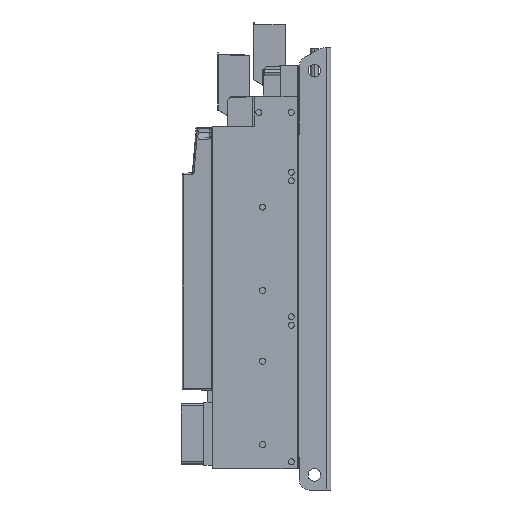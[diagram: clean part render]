
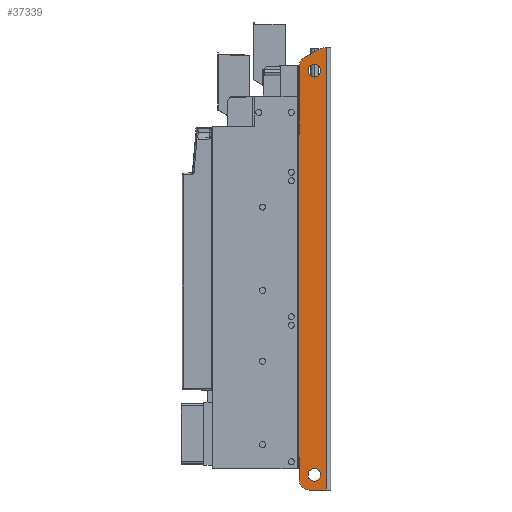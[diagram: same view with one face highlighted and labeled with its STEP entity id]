
A CAD part, left-side view. The second image highlights one B-rep face of the part: STEP entity #37339.
In plain terms, the highlighted planar face has unit normal (-1, 0, 0).
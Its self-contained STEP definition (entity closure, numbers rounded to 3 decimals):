
#2659 = CARTESIAN_POINT ( 'NONE',  ( -163., 25., -43.9 ) ) ;
#3404 = ORIENTED_EDGE ( 'NONE', *, *, #83073, .T. ) ;
#3478 = VERTEX_POINT ( 'NONE', #81518 ) ;
#3687 = ORIENTED_EDGE ( 'NONE', *, *, #75972, .T. ) ;
#3988 = ORIENTED_EDGE ( 'NONE', *, *, #23197, .T. ) ;
#4596 = ORIENTED_EDGE ( 'NONE', *, *, #13861, .T. ) ;
#5196 = EDGE_CURVE ( 'NONE', #61309, #70208, #18524, .T. ) ;
#6830 = EDGE_LOOP ( 'NONE', ( #54045, #49320 ) ) ;
#7768 = CARTESIAN_POINT ( 'NONE',  ( -163., -23.359, 791.1 ) ) ;
#8004 = LINE ( 'NONE', #76830, #13808 ) ;
#8896 = DIRECTION ( 'NONE',  ( 0., 0., 1. ) ) ;
#9017 = DIRECTION ( 'NONE',  ( 0., 0., 1. ) ) ;
#9339 = DIRECTION ( 'NONE',  ( -1., 0., 0. ) ) ;
#9648 = AXIS2_PLACEMENT_3D ( 'NONE', #69621, #62364, #48316 ) ;
#11264 = LINE ( 'NONE', #66971, #25804 ) ;
#12111 = VECTOR ( 'NONE', #81367, 1000. ) ;
#13152 = VERTEX_POINT ( 'NONE', #19704 ) ;
#13808 = VECTOR ( 'NONE', #47863, 1000. ) ;
#13861 = EDGE_CURVE ( 'NONE', #28720, #49265, #43791, .T. ) ;
#13877 = CARTESIAN_POINT ( 'NONE',  ( -163., -5., 766.1 ) ) ;
#14892 = VECTOR ( 'NONE', #78818, 1000. ) ;
#15884 = VECTOR ( 'NONE', #30231, 1000. ) ;
#15907 = ORIENTED_EDGE ( 'NONE', *, *, #85964, .F. ) ;
#16560 = AXIS2_PLACEMENT_3D ( 'NONE', #53757, #25708, #45606 ) ;
#17066 = ORIENTED_EDGE ( 'NONE', *, *, #68152, .F. ) ;
#17256 = CIRCLE ( 'NONE', #79464, 12.5 ) ;
#17614 = DIRECTION ( 'NONE',  ( 0., 0., 1. ) ) ;
#18524 = CIRCLE ( 'NONE', #73473, 12.5 ) ;
#19704 = CARTESIAN_POINT ( 'NONE',  ( -163., 25., 640.5 ) ) ;
#21575 = CARTESIAN_POINT ( 'NONE',  ( -163., 25., -63.9 ) ) ;
#21870 = VERTEX_POINT ( 'NONE', #89673 ) ;
#22327 = EDGE_CURVE ( 'NONE', #43836, #3478, #63698, .T. ) ;
#22677 = CARTESIAN_POINT ( 'NONE',  ( -163., 27., 536. ) ) ;
#22712 = CARTESIAN_POINT ( 'NONE',  ( -163., 27., 640.5 ) ) ;
#23197 = EDGE_CURVE ( 'NONE', #34036, #63031, #11264, .T. ) ;
#23606 = DIRECTION ( 'NONE',  ( 0., -1., 0. ) ) ;
#23981 = CIRCLE ( 'NONE', #42774, 20. ) ;
#25086 = CARTESIAN_POINT ( 'NONE',  ( -163., -5., -21.4 ) ) ;
#25708 = DIRECTION ( 'NONE',  ( -1., 0., 0. ) ) ;
#25729 = CARTESIAN_POINT ( 'NONE',  ( -163., 5., -63.9 ) ) ;
#25804 = VECTOR ( 'NONE', #53350, 1000. ) ;
#26105 = CARTESIAN_POINT ( 'NONE',  ( -163., 25., -63.9 ) ) ;
#28037 = VERTEX_POINT ( 'NONE', #44565 ) ;
#28147 = DIRECTION ( 'NONE',  ( 0., 0., 1. ) ) ;
#28357 = DIRECTION ( 'NONE',  ( 0., 0., -1. ) ) ;
#28720 = VERTEX_POINT ( 'NONE', #29454 ) ;
#28842 = CARTESIAN_POINT ( 'NONE',  ( -163., -18., 811.1 ) ) ;
#29454 = CARTESIAN_POINT ( 'NONE',  ( -163., -29., -63.9 ) ) ;
#29557 = CIRCLE ( 'NONE', #16560, 12.5 ) ;
#29698 = LINE ( 'NONE', #21575, #68561 ) ;
#29993 = VERTEX_POINT ( 'NONE', #47945 ) ;
#30231 = DIRECTION ( 'NONE',  ( 0., 0., 1. ) ) ;
#30720 = EDGE_CURVE ( 'NONE', #42188, #13152, #42714, .T. ) ;
#32063 = CARTESIAN_POINT ( 'NONE',  ( -163., -29., 811.1 ) ) ;
#34036 = VERTEX_POINT ( 'NONE', #78187 ) ;
#34059 = CIRCLE ( 'NONE', #62950, 20. ) ;
#35606 = EDGE_CURVE ( 'NONE', #29993, #43836, #34059, .T. ) ;
#36515 = DIRECTION ( 'NONE',  ( 0., 0.866, -0.5 ) ) ;
#37339 = ADVANCED_FACE ( 'NONE', ( #62472, #42968, #42079 ), #55674, .T. ) ;
#37617 = CARTESIAN_POINT ( 'NONE',  ( -163., 25., 0. ) ) ;
#37647 = VERTEX_POINT ( 'NONE', #25729 ) ;
#39142 = EDGE_CURVE ( 'NONE', #70208, #61309, #62475, .T. ) ;
#40783 = CARTESIAN_POINT ( 'NONE',  ( -163., 25., 774.727 ) ) ;
#41388 = CARTESIAN_POINT ( 'NONE',  ( -163., 25., 585. ) ) ;
#42013 = CARTESIAN_POINT ( 'NONE',  ( -163., -29., -63.9 ) ) ;
#42079 = FACE_BOUND ( 'NONE', #56495, .T. ) ;
#42188 = VERTEX_POINT ( 'NONE', #40783 ) ;
#42714 = LINE ( 'NONE', #41388, #43672 ) ;
#42774 = AXIS2_PLACEMENT_3D ( 'NONE', #46815, #61302, #60393 ) ;
#42968 = FACE_BOUND ( 'NONE', #6830, .T. ) ;
#43672 = VECTOR ( 'NONE', #62223, 1000. ) ;
#43791 = LINE ( 'NONE', #42013, #15884 ) ;
#43836 = VERTEX_POINT ( 'NONE', #44087 ) ;
#44087 = CARTESIAN_POINT ( 'NONE',  ( -163., -13.359, 808.421 ) ) ;
#44565 = CARTESIAN_POINT ( 'NONE',  ( -163., 27., 640.5 ) ) ;
#44854 = LINE ( 'NONE', #22712, #70429 ) ;
#45606 = DIRECTION ( 'NONE',  ( 0., 0., 1. ) ) ;
#46815 = CARTESIAN_POINT ( 'NONE',  ( -163., 5., -43.9 ) ) ;
#47856 = CARTESIAN_POINT ( 'NONE',  ( -163., -5., -46.4 ) ) ;
#47863 = DIRECTION ( 'NONE',  ( 0., 1., 0. ) ) ;
#47945 = CARTESIAN_POINT ( 'NONE',  ( -163., -23.359, 811.1 ) ) ;
#48316 = DIRECTION ( 'NONE',  ( 0., 0., 1. ) ) ;
#48668 = EDGE_CURVE ( 'NONE', #28037, #13152, #44854, .T. ) ;
#48866 = CARTESIAN_POINT ( 'NONE',  ( -163., 27., 536. ) ) ;
#49265 = VERTEX_POINT ( 'NONE', #32063 ) ;
#49320 = ORIENTED_EDGE ( 'NONE', *, *, #39142, .F. ) ;
#49541 = EDGE_LOOP ( 'NONE', ( #3988, #3404, #3687, #60047, #4596, #62564, #63028, #58446, #60070, #58853, #50413, #70187 ) ) ;
#49762 = DIRECTION ( 'NONE',  ( -1., 0., 0. ) ) ;
#50413 = ORIENTED_EDGE ( 'NONE', *, *, #48668, .F. ) ;
#53350 = DIRECTION ( 'NONE',  ( 0., -1., 0. ) ) ;
#53757 = CARTESIAN_POINT ( 'NONE',  ( -163., -5., 766.1 ) ) ;
#53956 = CARTESIAN_POINT ( 'NONE',  ( -163., -5., 778.6 ) ) ;
#54045 = ORIENTED_EDGE ( 'NONE', *, *, #5196, .F. ) ;
#54475 = EDGE_CURVE ( 'NONE', #49265, #29993, #8004, .T. ) ;
#55674 = PLANE ( 'NONE',  #57815 ) ;
#56495 = EDGE_LOOP ( 'NONE', ( #17066, #15907 ) ) ;
#57510 = LINE ( 'NONE', #22677, #14892 ) ;
#57815 = AXIS2_PLACEMENT_3D ( 'NONE', #48866, #49762, #9017 ) ;
#58446 = ORIENTED_EDGE ( 'NONE', *, *, #22327, .T. ) ;
#58853 = ORIENTED_EDGE ( 'NONE', *, *, #30720, .T. ) ;
#60047 = ORIENTED_EDGE ( 'NONE', *, *, #74971, .T. ) ;
#60070 = ORIENTED_EDGE ( 'NONE', *, *, #60743, .T. ) ;
#60393 = DIRECTION ( 'NONE',  ( 0., 0., 1. ) ) ;
#60743 = EDGE_CURVE ( 'NONE', #3478, #42188, #73275, .T. ) ;
#61302 = DIRECTION ( 'NONE',  ( -1., 0., 0. ) ) ;
#61309 = VERTEX_POINT ( 'NONE', #25086 ) ;
#62223 = DIRECTION ( 'NONE',  ( 0., 0., -1. ) ) ;
#62364 = DIRECTION ( 'NONE',  ( -1., 0., 0. ) ) ;
#62472 = FACE_OUTER_BOUND ( 'NONE', #49541, .T. ) ;
#62475 = CIRCLE ( 'NONE', #74048, 12.5 ) ;
#62564 = ORIENTED_EDGE ( 'NONE', *, *, #54475, .T. ) ;
#62950 = AXIS2_PLACEMENT_3D ( 'NONE', #7768, #63903, #28147 ) ;
#63028 = ORIENTED_EDGE ( 'NONE', *, *, #35606, .T. ) ;
#63031 = VERTEX_POINT ( 'NONE', #37617 ) ;
#63698 = LINE ( 'NONE', #28842, #74916 ) ;
#63903 = DIRECTION ( 'NONE',  ( -1., 0., 0. ) ) ;
#64138 = CARTESIAN_POINT ( 'NONE',  ( -163., -5., -33.9 ) ) ;
#66443 = EDGE_CURVE ( 'NONE', #34036, #28037, #57510, .T. ) ;
#66971 = CARTESIAN_POINT ( 'NONE',  ( -163., 27., 0. ) ) ;
#66973 = CARTESIAN_POINT ( 'NONE',  ( -163., -5., -33.9 ) ) ;
#68152 = EDGE_CURVE ( 'NONE', #79761, #21870, #29557, .T. ) ;
#68561 = VECTOR ( 'NONE', #28357, 1000. ) ;
#69621 = CARTESIAN_POINT ( 'NONE',  ( -163., 5., 774.727 ) ) ;
#70187 = ORIENTED_EDGE ( 'NONE', *, *, #66443, .F. ) ;
#70208 = VERTEX_POINT ( 'NONE', #47856 ) ;
#70429 = VECTOR ( 'NONE', #23606, 1000. ) ;
#73275 = CIRCLE ( 'NONE', #9648, 20. ) ;
#73473 = AXIS2_PLACEMENT_3D ( 'NONE', #64138, #9339, #8896 ) ;
#74048 = AXIS2_PLACEMENT_3D ( 'NONE', #66973, #79684, #17614 ) ;
#74916 = VECTOR ( 'NONE', #36515, 1000. ) ;
#74971 = EDGE_CURVE ( 'NONE', #37647, #28720, #87716, .T. ) ;
#75469 = DIRECTION ( 'NONE',  ( -1., 0., 0. ) ) ;
#75972 = EDGE_CURVE ( 'NONE', #77601, #37647, #23981, .T. ) ;
#76830 = CARTESIAN_POINT ( 'NONE',  ( -163., 25., 811.1 ) ) ;
#77601 = VERTEX_POINT ( 'NONE', #2659 ) ;
#78187 = CARTESIAN_POINT ( 'NONE',  ( -163., 27., 0. ) ) ;
#78818 = DIRECTION ( 'NONE',  ( 0., 0., 1. ) ) ;
#79464 = AXIS2_PLACEMENT_3D ( 'NONE', #13877, #75469, #88645 ) ;
#79684 = DIRECTION ( 'NONE',  ( -1., 0., 0. ) ) ;
#79761 = VERTEX_POINT ( 'NONE', #53956 ) ;
#81367 = DIRECTION ( 'NONE',  ( 0., -1., 0. ) ) ;
#81518 = CARTESIAN_POINT ( 'NONE',  ( -163., 15., 792.047 ) ) ;
#83073 = EDGE_CURVE ( 'NONE', #63031, #77601, #29698, .T. ) ;
#85964 = EDGE_CURVE ( 'NONE', #21870, #79761, #17256, .T. ) ;
#87716 = LINE ( 'NONE', #26105, #12111 ) ;
#88645 = DIRECTION ( 'NONE',  ( 0., 0., 1. ) ) ;
#89673 = CARTESIAN_POINT ( 'NONE',  ( -163., -5., 753.6 ) ) ;
